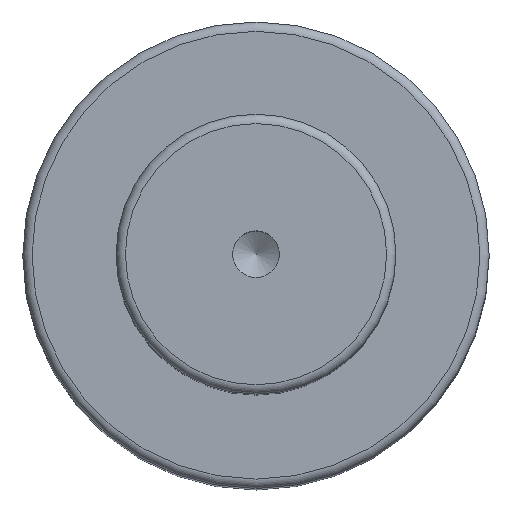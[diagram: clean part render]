
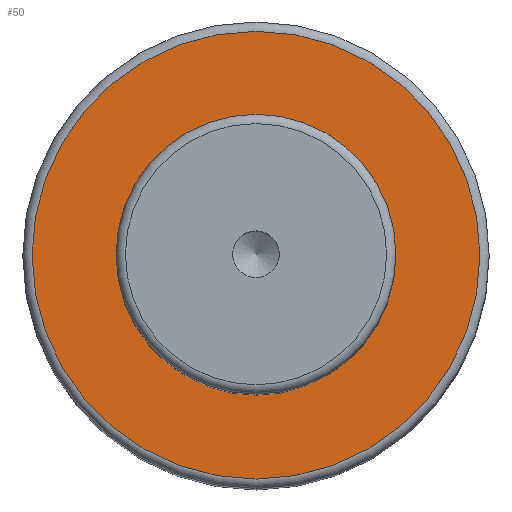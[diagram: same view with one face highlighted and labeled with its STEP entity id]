
A CAD part, top view. The second image highlights one B-rep face of the part: STEP entity #50.
In plain terms, the highlighted planar face has unit normal (0, 0, 1).
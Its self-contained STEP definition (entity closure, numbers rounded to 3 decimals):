
#40=PLANE('',#179);
#50=ADVANCED_FACE('',(#72,#73),#40,.F.);
#72=FACE_BOUND('',#96,.T.);
#73=FACE_BOUND('',#97,.T.);
#96=EDGE_LOOP('',(#118));
#97=EDGE_LOOP('',(#119));
#118=ORIENTED_EDGE('',*,*,#149,.F.);
#119=ORIENTED_EDGE('',*,*,#148,.T.);
#135=VERTEX_POINT('',#256);
#136=VERTEX_POINT('',#259);
#148=EDGE_CURVE('',#135,#135,#159,.T.);
#149=EDGE_CURVE('',#136,#136,#160,.T.);
#159=CIRCLE('',#176,15.);
#160=CIRCLE('',#178,24.);
#176=AXIS2_PLACEMENT_3D('',#255,#213,#214);
#178=AXIS2_PLACEMENT_3D('',#258,#217,#218);
#179=AXIS2_PLACEMENT_3D('',#260,#219,#220);
#213=DIRECTION('',(0.,0.,-1.));
#214=DIRECTION('',(-1.,0.,0.));
#217=DIRECTION('',(0.,0.,-1.));
#218=DIRECTION('',(-1.,0.,0.));
#219=DIRECTION('',(0.,0.,-1.));
#220=DIRECTION('',(-1.,0.,0.));
#255=CARTESIAN_POINT('',(0.,0.,97.));
#256=CARTESIAN_POINT('',(-15.,0.,97.));
#258=CARTESIAN_POINT('',(0.,0.,97.));
#259=CARTESIAN_POINT('',(-24.,0.,97.));
#260=CARTESIAN_POINT('',(15.,0.,97.));
